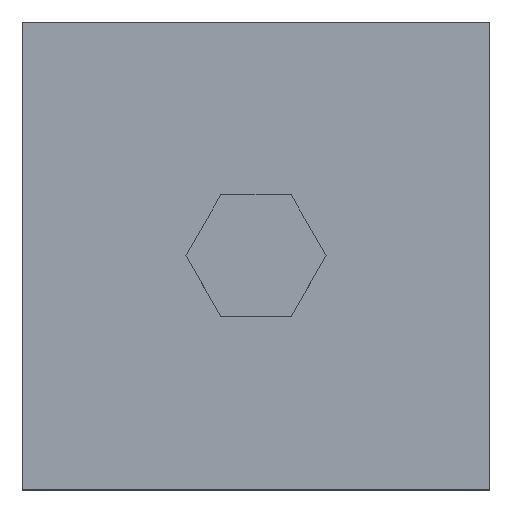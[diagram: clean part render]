
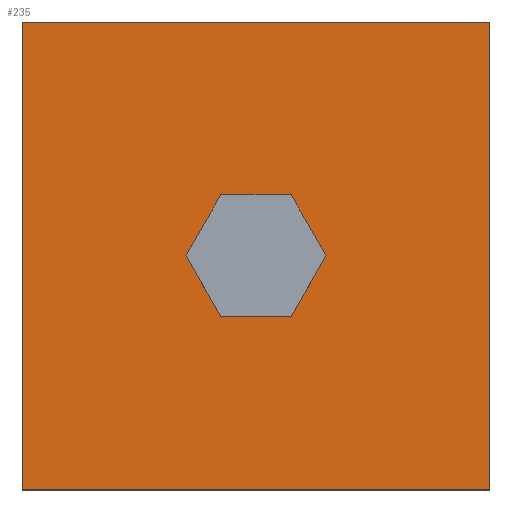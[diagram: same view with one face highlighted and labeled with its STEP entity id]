
A CAD part, top view. The second image highlights one B-rep face of the part: STEP entity #235.
In plain terms, the highlighted planar face has unit normal (0, 0, 1).
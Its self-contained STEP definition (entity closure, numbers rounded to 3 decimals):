
#46 = VERTEX_POINT('',#47);
#47 = CARTESIAN_POINT('',(-50.,-50.,30.));
#54 = PLANE('',#55);
#55 = AXIS2_PLACEMENT_3D('',#56,#57,#58);
#56 = CARTESIAN_POINT('',(-50.,-50.,0.));
#57 = DIRECTION('',(1.,0.,0.));
#58 = DIRECTION('',(0.,0.,1.));
#66 = PLANE('',#67);
#67 = AXIS2_PLACEMENT_3D('',#68,#69,#70);
#68 = CARTESIAN_POINT('',(-50.,-50.,0.));
#69 = DIRECTION('',(0.,1.,0.));
#70 = DIRECTION('',(0.,-0.,1.));
#107 = VERTEX_POINT('',#108);
#108 = CARTESIAN_POINT('',(-50.,50.,30.));
#122 = PLANE('',#123);
#123 = AXIS2_PLACEMENT_3D('',#124,#125,#126);
#124 = CARTESIAN_POINT('',(-50.,50.,0.));
#125 = DIRECTION('',(0.,1.,0.));
#126 = DIRECTION('',(0.,-0.,1.));
#134 = EDGE_CURVE('',#46,#107,#135,.T.);
#135 = SURFACE_CURVE('',#136,(#140,#147),.PCURVE_S1.);
#136 = LINE('',#137,#138);
#137 = CARTESIAN_POINT('',(-50.,-50.,30.));
#138 = VECTOR('',#139,1.);
#139 = DIRECTION('',(0.,1.,0.));
#140 = PCURVE('',#54,#141);
#141 = DEFINITIONAL_REPRESENTATION('',(#142),#146);
#142 = LINE('',#143,#144);
#143 = CARTESIAN_POINT('',(30.,0.));
#144 = VECTOR('',#145,1.);
#145 = DIRECTION('',(0.,-1.));
#146 = ( GEOMETRIC_REPRESENTATION_CONTEXT(2) 
PARAMETRIC_REPRESENTATION_CONTEXT() REPRESENTATION_CONTEXT('2D SPACE',''
  ) );
#147 = PCURVE('',#148,#153);
#148 = PLANE('',#149);
#149 = AXIS2_PLACEMENT_3D('',#150,#151,#152);
#150 = CARTESIAN_POINT('',(-50.,-50.,30.));
#151 = DIRECTION('',(0.,0.,1.));
#152 = DIRECTION('',(1.,0.,-0.));
#153 = DEFINITIONAL_REPRESENTATION('',(#154),#158);
#154 = LINE('',#155,#156);
#155 = CARTESIAN_POINT('',(0.,0.));
#156 = VECTOR('',#157,1.);
#157 = DIRECTION('',(0.,1.));
#158 = ( GEOMETRIC_REPRESENTATION_CONTEXT(2) 
PARAMETRIC_REPRESENTATION_CONTEXT() REPRESENTATION_CONTEXT('2D SPACE',''
  ) );
#187 = EDGE_CURVE('',#46,#188,#190,.T.);
#188 = VERTEX_POINT('',#189);
#189 = CARTESIAN_POINT('',(50.,-50.,30.));
#190 = SURFACE_CURVE('',#191,(#195,#202),.PCURVE_S1.);
#191 = LINE('',#192,#193);
#192 = CARTESIAN_POINT('',(-50.,-50.,30.));
#193 = VECTOR('',#194,1.);
#194 = DIRECTION('',(1.,0.,0.));
#195 = PCURVE('',#66,#196);
#196 = DEFINITIONAL_REPRESENTATION('',(#197),#201);
#197 = LINE('',#198,#199);
#198 = CARTESIAN_POINT('',(30.,0.));
#199 = VECTOR('',#200,1.);
#200 = DIRECTION('',(0.,1.));
#201 = ( GEOMETRIC_REPRESENTATION_CONTEXT(2) 
PARAMETRIC_REPRESENTATION_CONTEXT() REPRESENTATION_CONTEXT('2D SPACE',''
  ) );
#202 = PCURVE('',#148,#203);
#203 = DEFINITIONAL_REPRESENTATION('',(#204),#208);
#204 = LINE('',#205,#206);
#205 = CARTESIAN_POINT('',(0.,0.));
#206 = VECTOR('',#207,1.);
#207 = DIRECTION('',(1.,0.));
#208 = ( GEOMETRIC_REPRESENTATION_CONTEXT(2) 
PARAMETRIC_REPRESENTATION_CONTEXT() REPRESENTATION_CONTEXT('2D SPACE',''
  ) );
#224 = PLANE('',#225);
#225 = AXIS2_PLACEMENT_3D('',#226,#227,#228);
#226 = CARTESIAN_POINT('',(50.,-50.,0.));
#227 = DIRECTION('',(1.,0.,0.));
#228 = DIRECTION('',(0.,0.,1.));
#235 = ADVANCED_FACE('',(#236,#284),#148,.T.);
#236 = FACE_BOUND('',#237,.T.);
#237 = EDGE_LOOP('',(#238,#239,#240,#263));
#238 = ORIENTED_EDGE('',*,*,#134,.F.);
#239 = ORIENTED_EDGE('',*,*,#187,.T.);
#240 = ORIENTED_EDGE('',*,*,#241,.T.);
#241 = EDGE_CURVE('',#188,#242,#244,.T.);
#242 = VERTEX_POINT('',#243);
#243 = CARTESIAN_POINT('',(50.,50.,30.));
#244 = SURFACE_CURVE('',#245,(#249,#256),.PCURVE_S1.);
#245 = LINE('',#246,#247);
#246 = CARTESIAN_POINT('',(50.,-50.,30.));
#247 = VECTOR('',#248,1.);
#248 = DIRECTION('',(0.,1.,0.));
#249 = PCURVE('',#148,#250);
#250 = DEFINITIONAL_REPRESENTATION('',(#251),#255);
#251 = LINE('',#252,#253);
#252 = CARTESIAN_POINT('',(100.,0.));
#253 = VECTOR('',#254,1.);
#254 = DIRECTION('',(0.,1.));
#255 = ( GEOMETRIC_REPRESENTATION_CONTEXT(2) 
PARAMETRIC_REPRESENTATION_CONTEXT() REPRESENTATION_CONTEXT('2D SPACE',''
  ) );
#256 = PCURVE('',#224,#257);
#257 = DEFINITIONAL_REPRESENTATION('',(#258),#262);
#258 = LINE('',#259,#260);
#259 = CARTESIAN_POINT('',(30.,0.));
#260 = VECTOR('',#261,1.);
#261 = DIRECTION('',(0.,-1.));
#262 = ( GEOMETRIC_REPRESENTATION_CONTEXT(2) 
PARAMETRIC_REPRESENTATION_CONTEXT() REPRESENTATION_CONTEXT('2D SPACE',''
  ) );
#263 = ORIENTED_EDGE('',*,*,#264,.F.);
#264 = EDGE_CURVE('',#107,#242,#265,.T.);
#265 = SURFACE_CURVE('',#266,(#270,#277),.PCURVE_S1.);
#266 = LINE('',#267,#268);
#267 = CARTESIAN_POINT('',(-50.,50.,30.));
#268 = VECTOR('',#269,1.);
#269 = DIRECTION('',(1.,0.,0.));
#270 = PCURVE('',#148,#271);
#271 = DEFINITIONAL_REPRESENTATION('',(#272),#276);
#272 = LINE('',#273,#274);
#273 = CARTESIAN_POINT('',(0.,100.));
#274 = VECTOR('',#275,1.);
#275 = DIRECTION('',(1.,0.));
#276 = ( GEOMETRIC_REPRESENTATION_CONTEXT(2) 
PARAMETRIC_REPRESENTATION_CONTEXT() REPRESENTATION_CONTEXT('2D SPACE',''
  ) );
#277 = PCURVE('',#122,#278);
#278 = DEFINITIONAL_REPRESENTATION('',(#279),#283);
#279 = LINE('',#280,#281);
#280 = CARTESIAN_POINT('',(30.,0.));
#281 = VECTOR('',#282,1.);
#282 = DIRECTION('',(0.,1.));
#283 = ( GEOMETRIC_REPRESENTATION_CONTEXT(2) 
PARAMETRIC_REPRESENTATION_CONTEXT() REPRESENTATION_CONTEXT('2D SPACE',''
  ) );
#284 = FACE_BOUND('',#285,.T.);
#285 = EDGE_LOOP('',(#286));
#286 = ORIENTED_EDGE('',*,*,#287,.F.);
#287 = EDGE_CURVE('',#288,#288,#290,.T.);
#288 = VERTEX_POINT('',#289);
#289 = CARTESIAN_POINT('',(13.,0.,30.));
#290 = SURFACE_CURVE('',#291,(#296,#303),.PCURVE_S1.);
#291 = CIRCLE('',#292,13.);
#292 = AXIS2_PLACEMENT_3D('',#293,#294,#295);
#293 = CARTESIAN_POINT('',(0.,0.,30.));
#294 = DIRECTION('',(0.,0.,1.));
#295 = DIRECTION('',(1.,0.,-0.));
#296 = PCURVE('',#148,#297);
#297 = DEFINITIONAL_REPRESENTATION('',(#298),#302);
#298 = CIRCLE('',#299,13.);
#299 = AXIS2_PLACEMENT_2D('',#300,#301);
#300 = CARTESIAN_POINT('',(50.,50.));
#301 = DIRECTION('',(1.,0.));
#302 = ( GEOMETRIC_REPRESENTATION_CONTEXT(2) 
PARAMETRIC_REPRESENTATION_CONTEXT() REPRESENTATION_CONTEXT('2D SPACE',''
  ) );
#303 = PCURVE('',#304,#309);
#304 = CONICAL_SURFACE('',#305,12.,0.785);
#305 = AXIS2_PLACEMENT_3D('',#306,#307,#308);
#306 = CARTESIAN_POINT('',(0.,0.,29.));
#307 = DIRECTION('',(0.,0.,1.));
#308 = DIRECTION('',(1.,0.,-0.));
#309 = DEFINITIONAL_REPRESENTATION('',(#310),#314);
#310 = LINE('',#311,#312);
#311 = CARTESIAN_POINT('',(0.,1.));
#312 = VECTOR('',#313,1.);
#313 = DIRECTION('',(1.,0.));
#314 = ( GEOMETRIC_REPRESENTATION_CONTEXT(2) 
PARAMETRIC_REPRESENTATION_CONTEXT() REPRESENTATION_CONTEXT('2D SPACE',''
  ) );
